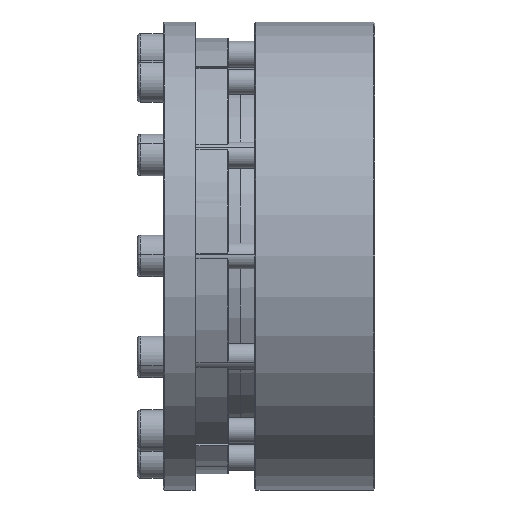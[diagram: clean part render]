
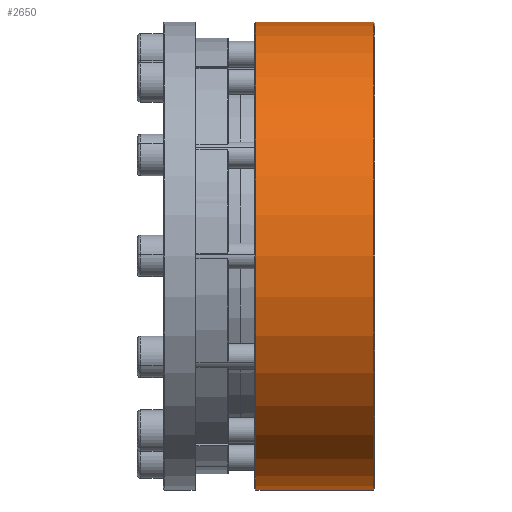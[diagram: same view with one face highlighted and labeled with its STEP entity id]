
A CAD part, front view. The second image highlights one B-rep face of the part: STEP entity #2650.
In plain terms, the highlighted cylindrical face has radius 89.925 mm (diameter 179.85 mm), a partial arc.
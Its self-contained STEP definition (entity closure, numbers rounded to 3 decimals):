
#115 = CIRCLE ( 'NONE', #1814, 89.925 ) ;
#124 = CARTESIAN_POINT ( 'NONE',  ( -70.181, 26.04, 89.925 ) ) ;
#1295 = ORIENTED_EDGE ( 'NONE', *, *, #3865, .T. ) ;
#1539 = DIRECTION ( 'NONE',  ( 0., 0., 1. ) ) ;
#1607 = DIRECTION ( 'NONE',  ( 0., 0., -1. ) ) ;
#1814 = AXIS2_PLACEMENT_3D ( 'NONE', #10597, #2595, #1539 ) ;
#2595 = DIRECTION ( 'NONE',  ( -1., 0., 0. ) ) ;
#2650 = ADVANCED_FACE ( 'NONE', ( #9058 ), #12037, .T. ) ;
#3248 = CARTESIAN_POINT ( 'NONE',  ( -70.581, 26.04, 89.925 ) ) ;
#3335 = VECTOR ( 'NONE', #5438, 1000. ) ;
#3717 = CARTESIAN_POINT ( 'NONE',  ( -70.181, 26.04, 0. ) ) ;
#3789 = EDGE_CURVE ( 'NONE', #4356, #4068, #12800, .T. ) ;
#3856 = DIRECTION ( 'NONE',  ( -1., 0., 0. ) ) ;
#3865 = EDGE_CURVE ( 'NONE', #5280, #12773, #115, .T. ) ;
#4068 = VERTEX_POINT ( 'NONE', #7738 ) ;
#4076 = DIRECTION ( 'NONE',  ( -1., 0., 0. ) ) ;
#4199 = ORIENTED_EDGE ( 'NONE', *, *, #4504, .F. ) ;
#4337 = CARTESIAN_POINT ( 'NONE',  ( -24.981, 26.04, 89.925 ) ) ;
#4356 = VERTEX_POINT ( 'NONE', #124 ) ;
#4504 = EDGE_CURVE ( 'NONE', #5280, #4068, #6786, .T. ) ;
#5161 = LINE ( 'NONE', #3248, #3335 ) ;
#5280 = VERTEX_POINT ( 'NONE', #6620 ) ;
#5414 = VECTOR ( 'NONE', #3856, 1000. ) ;
#5438 = DIRECTION ( 'NONE',  ( -1., 0., 0. ) ) ;
#6563 = DIRECTION ( 'NONE',  ( 1., 0., 0. ) ) ;
#6620 = CARTESIAN_POINT ( 'NONE',  ( -24.981, 26.04, -89.925 ) ) ;
#6786 = LINE ( 'NONE', #10816, #5414 ) ;
#7738 = CARTESIAN_POINT ( 'NONE',  ( -70.181, 26.04, -89.925 ) ) ;
#8084 = AXIS2_PLACEMENT_3D ( 'NONE', #11222, #4076, #11032 ) ;
#8255 = ORIENTED_EDGE ( 'NONE', *, *, #3789, .T. ) ;
#9058 = FACE_OUTER_BOUND ( 'NONE', #11908, .T. ) ;
#10292 = ORIENTED_EDGE ( 'NONE', *, *, #11161, .T. ) ;
#10597 = CARTESIAN_POINT ( 'NONE',  ( -24.981, 26.04, 0. ) ) ;
#10816 = CARTESIAN_POINT ( 'NONE',  ( -70.581, 26.04, -89.925 ) ) ;
#11032 = DIRECTION ( 'NONE',  ( 0., 0., 1. ) ) ;
#11161 = EDGE_CURVE ( 'NONE', #12773, #4356, #5161, .T. ) ;
#11222 = CARTESIAN_POINT ( 'NONE',  ( -70.581, 26.04, 0. ) ) ;
#11727 = AXIS2_PLACEMENT_3D ( 'NONE', #3717, #6563, #1607 ) ;
#11908 = EDGE_LOOP ( 'NONE', ( #4199, #1295, #10292, #8255 ) ) ;
#12037 = CYLINDRICAL_SURFACE ( 'NONE', #8084, 89.925 ) ;
#12773 = VERTEX_POINT ( 'NONE', #4337 ) ;
#12800 = CIRCLE ( 'NONE', #11727, 89.925 ) ;
